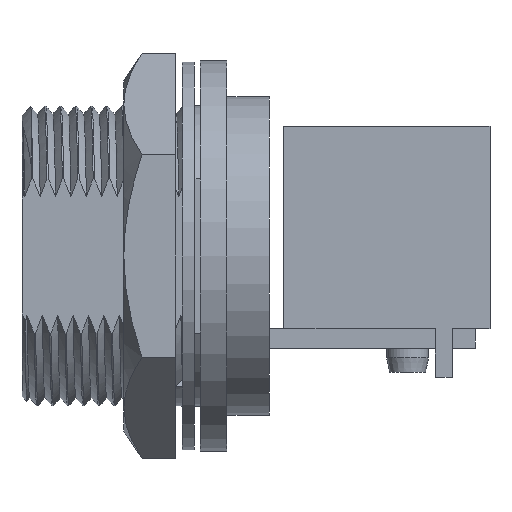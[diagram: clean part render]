
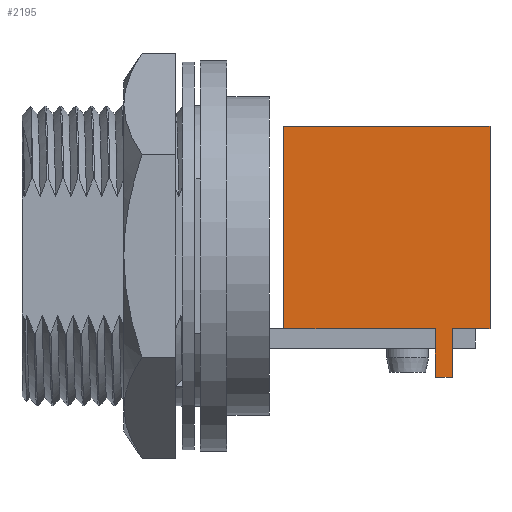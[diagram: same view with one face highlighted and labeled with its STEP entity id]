
A CAD part, front view. The second image highlights one B-rep face of the part: STEP entity #2195.
In plain terms, the highlighted planar face has unit normal (0, -1, 0).
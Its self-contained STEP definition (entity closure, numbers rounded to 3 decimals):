
#224=PLANE('',#2408);
#343=FACE_OUTER_BOUND('',#472,.T.);
#472=EDGE_LOOP('',(#1927,#1928,#1929,#1930,#1931,#1932,#1933,#1934));
#586=LINE('',#5879,#782);
#591=LINE('',#5889,#787);
#598=LINE('',#5903,#794);
#606=LINE('',#5918,#802);
#607=LINE('',#5920,#803);
#644=LINE('',#5996,#840);
#650=LINE('',#6007,#846);
#651=LINE('',#6009,#847);
#782=VECTOR('',#2663,1.);
#787=VECTOR('',#2670,1.);
#794=VECTOR('',#2683,1.);
#802=VECTOR('',#2699,1.);
#803=VECTOR('',#2702,1.);
#840=VECTOR('',#2767,1.);
#846=VECTOR('',#2777,1.);
#847=VECTOR('',#2780,1.);
#1054=VERTEX_POINT('',#5876);
#1055=VERTEX_POINT('',#5878);
#1058=VERTEX_POINT('',#5886);
#1059=VERTEX_POINT('',#5888);
#1063=VERTEX_POINT('',#5902);
#1066=VERTEX_POINT('',#5916);
#1091=VERTEX_POINT('',#5995);
#1094=VERTEX_POINT('',#6005);
#1326=EDGE_CURVE('',#1055,#1054,#586,.T.);
#1331=EDGE_CURVE('',#1059,#1058,#591,.T.);
#1338=EDGE_CURVE('',#1059,#1063,#598,.T.);
#1346=EDGE_CURVE('',#1066,#1054,#606,.T.);
#1347=EDGE_CURVE('',#1063,#1066,#607,.T.);
#1384=EDGE_CURVE('',#1055,#1091,#644,.T.);
#1390=EDGE_CURVE('',#1058,#1094,#650,.T.);
#1391=EDGE_CURVE('',#1091,#1094,#651,.T.);
#1927=ORIENTED_EDGE('',*,*,#1326,.T.);
#1928=ORIENTED_EDGE('',*,*,#1346,.F.);
#1929=ORIENTED_EDGE('',*,*,#1347,.F.);
#1930=ORIENTED_EDGE('',*,*,#1338,.F.);
#1931=ORIENTED_EDGE('',*,*,#1331,.T.);
#1932=ORIENTED_EDGE('',*,*,#1390,.T.);
#1933=ORIENTED_EDGE('',*,*,#1391,.F.);
#1934=ORIENTED_EDGE('',*,*,#1384,.F.);
#2195=ADVANCED_FACE('',(#343),#224,.T.);
#2408=AXIS2_PLACEMENT_3D('',#6008,#2778,#2779);
#2663=DIRECTION('',(1.,0.,0.));
#2670=DIRECTION('',(1.,0.,0.));
#2683=DIRECTION('',(0.,0.,-1.));
#2699=DIRECTION('',(0.,0.,1.));
#2702=DIRECTION('',(-1.,0.,0.));
#2767=DIRECTION('',(0.,0.,1.));
#2777=DIRECTION('',(0.,0.,1.));
#2778=DIRECTION('center_axis',(0.,-1.,0.));
#2779=DIRECTION('ref_axis',(1.,0.,0.));
#2780=DIRECTION('',(1.,0.,0.));
#5876=CARTESIAN_POINT('',(34.1,-8.15,-6.));
#5878=CARTESIAN_POINT('',(21.6,-8.15,-6.));
#5879=CARTESIAN_POINT('',(21.6,-8.15,-6.));
#5886=CARTESIAN_POINT('',(38.6,-8.15,-6.));
#5888=CARTESIAN_POINT('',(35.5,-8.15,-6.));
#5889=CARTESIAN_POINT('',(21.6,-8.15,-6.));
#5902=CARTESIAN_POINT('',(35.5,-8.15,-10.));
#5903=CARTESIAN_POINT('',(35.5,-8.15,-6.));
#5916=CARTESIAN_POINT('',(34.1,-8.15,-10.));
#5918=CARTESIAN_POINT('',(34.1,-8.15,-10.));
#5920=CARTESIAN_POINT('',(35.5,-8.15,-10.));
#5995=CARTESIAN_POINT('',(21.6,-8.15,10.7));
#5996=CARTESIAN_POINT('',(21.6,-8.15,-6.));
#6005=CARTESIAN_POINT('',(38.6,-8.15,10.7));
#6007=CARTESIAN_POINT('',(38.6,-8.15,-6.));
#6008=CARTESIAN_POINT('Origin',(21.6,-8.15,-6.));
#6009=CARTESIAN_POINT('',(21.6,-8.15,10.7));
